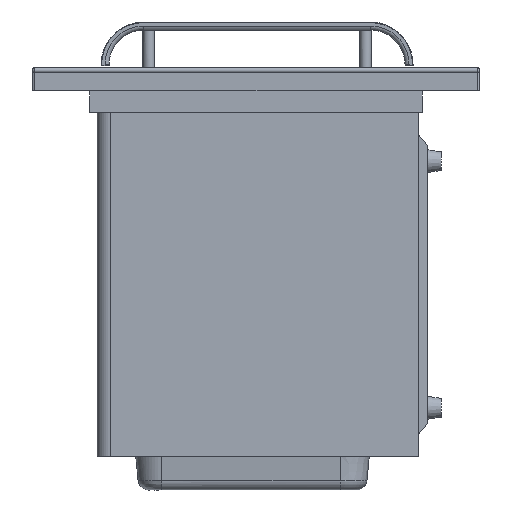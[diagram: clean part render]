
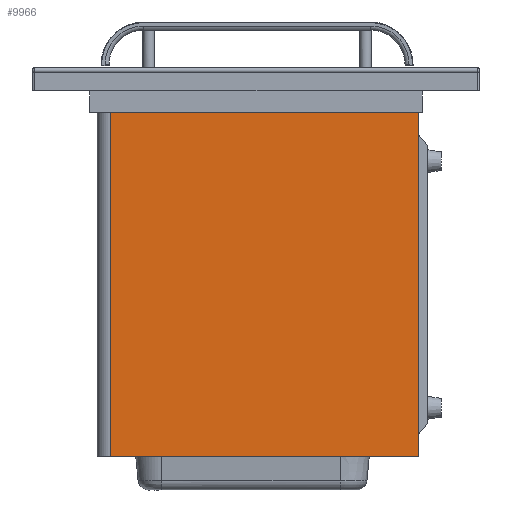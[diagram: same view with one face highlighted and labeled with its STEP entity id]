
A CAD part, left-side view. The second image highlights one B-rep face of the part: STEP entity #9966.
In plain terms, the highlighted planar face has unit normal (-1, 0, 0).
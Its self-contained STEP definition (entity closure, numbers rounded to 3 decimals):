
#964 = VERTEX_POINT ( 'NONE', #3775 ) ;
#1079 = AXIS2_PLACEMENT_3D ( 'NONE', #15529, #19334, #12895 ) ;
#1351 = FACE_OUTER_BOUND ( 'NONE', #10768, .T. ) ;
#2876 = EDGE_CURVE ( 'NONE', #16291, #15824, #10570, .T. ) ;
#3775 = CARTESIAN_POINT ( 'NONE',  ( -199.5, -38., 165.971 ) ) ;
#4644 = DIRECTION ( 'NONE',  ( 0., 0., -1. ) ) ;
#4762 = DIRECTION ( 'NONE',  ( 0., 1., 0. ) ) ;
#4817 = VECTOR ( 'NONE', #4644, 1000. ) ;
#5660 = CARTESIAN_POINT ( 'NONE',  ( -199.5, -38., 165.971 ) ) ;
#6523 = CARTESIAN_POINT ( 'NONE',  ( -199.5, 230.5, 165.971 ) ) ;
#7393 = LINE ( 'NONE', #7591, #16112 ) ;
#7591 = CARTESIAN_POINT ( 'NONE',  ( -199.5, 230.5, -141. ) ) ;
#8472 = VERTEX_POINT ( 'NONE', #21552 ) ;
#9966 = ADVANCED_FACE ( 'NONE', ( #1351 ), #16458, .T. ) ;
#10479 = LINE ( 'NONE', #15229, #17540 ) ;
#10570 = LINE ( 'NONE', #16871, #4817 ) ;
#10768 = EDGE_LOOP ( 'NONE', ( #21059, #15195, #21366, #20075 ) ) ;
#12895 = DIRECTION ( 'NONE',  ( 0., -1., 0. ) ) ;
#12905 = DIRECTION ( 'NONE',  ( 0., 1., 0. ) ) ;
#15195 = ORIENTED_EDGE ( 'NONE', *, *, #21121, .F. ) ;
#15229 = CARTESIAN_POINT ( 'NONE',  ( -199.5, 230.5, 165.971 ) ) ;
#15529 = CARTESIAN_POINT ( 'NONE',  ( -199.5, 230.5, 165.971 ) ) ;
#15824 = VERTEX_POINT ( 'NONE', #19027 ) ;
#16014 = VECTOR ( 'NONE', #16098, 1000. ) ;
#16098 = DIRECTION ( 'NONE',  ( 0., 0., -1. ) ) ;
#16112 = VECTOR ( 'NONE', #12905, 1000. ) ;
#16291 = VERTEX_POINT ( 'NONE', #6523 ) ;
#16458 = PLANE ( 'NONE',  #1079 ) ;
#16684 = EDGE_CURVE ( 'NONE', #964, #16291, #10479, .T. ) ;
#16871 = CARTESIAN_POINT ( 'NONE',  ( -199.5, 230.5, 165.971 ) ) ;
#17366 = EDGE_CURVE ( 'NONE', #8472, #15824, #7393, .T. ) ;
#17540 = VECTOR ( 'NONE', #4762, 1000. ) ;
#19027 = CARTESIAN_POINT ( 'NONE',  ( -199.5, 230.5, -141. ) ) ;
#19334 = DIRECTION ( 'NONE',  ( -1., 0., 0. ) ) ;
#20075 = ORIENTED_EDGE ( 'NONE', *, *, #2876, .T. ) ;
#20174 = LINE ( 'NONE', #5660, #16014 ) ;
#21059 = ORIENTED_EDGE ( 'NONE', *, *, #17366, .F. ) ;
#21121 = EDGE_CURVE ( 'NONE', #964, #8472, #20174, .T. ) ;
#21366 = ORIENTED_EDGE ( 'NONE', *, *, #16684, .T. ) ;
#21552 = CARTESIAN_POINT ( 'NONE',  ( -199.5, -38., -141. ) ) ;
